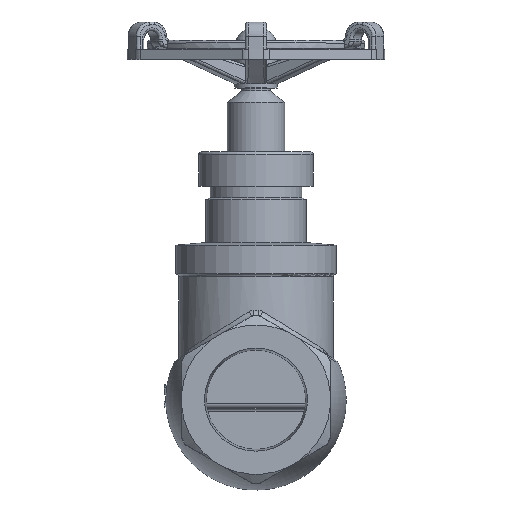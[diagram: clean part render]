
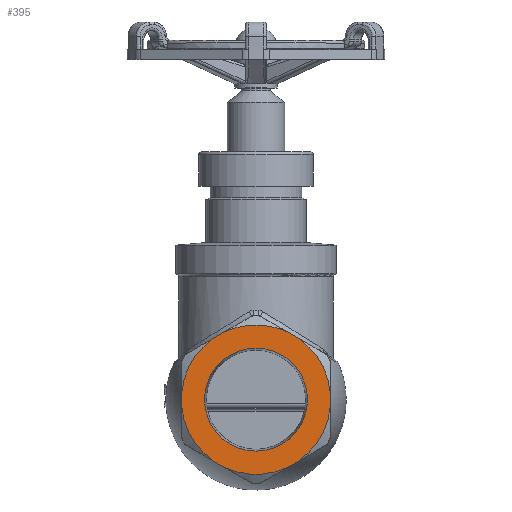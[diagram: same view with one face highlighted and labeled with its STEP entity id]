
A CAD part, top view. The second image highlights one B-rep face of the part: STEP entity #395.
In plain terms, the highlighted planar face has unit normal (0, 0, 1).
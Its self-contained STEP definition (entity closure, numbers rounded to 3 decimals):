
#395=ADVANCED_FACE('',(#4442,#4444),#4446,.T.);
#4442=FACE_BOUND('',#4443,.T.);
#4443=EDGE_LOOP('',(#13542,#13543,#13544,#13545,#13546,#13547,#13548,#13549,#13550,
#13551,#13552,#13553));
#4444=FACE_BOUND('',#4445,.T.);
#4445=EDGE_LOOP('',(#13554));
#4446=PLANE('',#4447);
#4447=AXIS2_PLACEMENT_3D('',#4448,#4449,#4450);
#4448=CARTESIAN_POINT('',(0.,0.,0.));
#4449=DIRECTION('',(0.,0.,1.));
#4450=DIRECTION('',(1.,0.,0.));
#13542=ORIENTED_EDGE('',*,*,#16520,.T.);
#13543=ORIENTED_EDGE('',*,*,#16521,.T.);
#13544=ORIENTED_EDGE('',*,*,#16522,.T.);
#13545=ORIENTED_EDGE('',*,*,#16436,.T.);
#13546=ORIENTED_EDGE('',*,*,#16523,.T.);
#13547=ORIENTED_EDGE('',*,*,#16426,.T.);
#13548=ORIENTED_EDGE('',*,*,#16524,.T.);
#13549=ORIENTED_EDGE('',*,*,#16416,.T.);
#13550=ORIENTED_EDGE('',*,*,#16525,.T.);
#13551=ORIENTED_EDGE('',*,*,#16406,.T.);
#13552=ORIENTED_EDGE('',*,*,#16519,.T.);
#13553=ORIENTED_EDGE('',*,*,#16517,.T.);
#13554=ORIENTED_EDGE('',*,*,#16526,.T.);
#16406=EDGE_CURVE('',#18029,#18027,#18030,.T.);
#16416=EDGE_CURVE('',#18045,#18043,#18046,.T.);
#16426=EDGE_CURVE('',#18061,#18059,#18062,.T.);
#16436=EDGE_CURVE('',#18077,#18075,#18078,.T.);
#16517=EDGE_CURVE('',#18212,#18210,#18213,.T.);
#16519=EDGE_CURVE('',#18027,#18212,#18215,.F.);
#16520=EDGE_CURVE('',#18210,#18216,#18217,.F.);
#16521=EDGE_CURVE('',#18216,#18218,#18219,.T.);
#16522=EDGE_CURVE('',#18218,#18077,#18220,.F.);
#16523=EDGE_CURVE('',#18075,#18061,#18221,.F.);
#16524=EDGE_CURVE('',#18059,#18045,#18222,.F.);
#16525=EDGE_CURVE('',#18043,#18029,#18223,.F.);
#16526=EDGE_CURVE('',#18224,#18224,#18225,.F.);
#18027=VERTEX_POINT('',#23497);
#18029=VERTEX_POINT('',#23534);
#18030=LINE('',#23535,#23536);
#18043=VERTEX_POINT('',#23625);
#18045=VERTEX_POINT('',#23658);
#18046=LINE('',#23659,#23660);
#18059=VERTEX_POINT('',#23747);
#18061=VERTEX_POINT('',#23780);
#18062=LINE('',#23781,#23782);
#18075=VERTEX_POINT('',#23867);
#18077=VERTEX_POINT('',#23904);
#18078=LINE('',#23905,#23906);
#18210=VERTEX_POINT('',#24708);
#18212=VERTEX_POINT('',#24741);
#18213=LINE('',#24742,#24743);
#18215=CIRCLE('',#24773,26.097);
#18216=VERTEX_POINT('',#24777);
#18217=CIRCLE('',#24778,26.097);
#18218=VERTEX_POINT('',#24782);
#18219=LINE('',#24783,#24784);
#18220=CIRCLE('',#24786,26.097);
#18221=CIRCLE('',#24790,26.097);
#18222=CIRCLE('',#24794,26.097);
#18223=CIRCLE('',#24798,26.097);
#18224=VERTEX_POINT('',#24802);
#18225=CIRCLE('',#24803,18.);
#23497=CARTESIAN_POINT('',(25.981,32.455,0.));
#23534=CARTESIAN_POINT('',(25.981,27.545,0.));
#23535=CARTESIAN_POINT('',(25.981,27.545,0.));
#23536=VECTOR('',#23537,1.);
#23537=DIRECTION('',(0.,1.,0.));
#23625=CARTESIAN_POINT('',(15.117,8.728,0.));
#23658=CARTESIAN_POINT('',(10.864,6.272,0.));
#23659=CARTESIAN_POINT('',(10.864,6.272,0.));
#23660=VECTOR('',#23661,1.);
#23661=DIRECTION('',(0.866,0.5,0.));
#23747=CARTESIAN_POINT('',(-10.864,6.272,0.));
#23780=CARTESIAN_POINT('',(-15.117,8.728,0.));
#23781=CARTESIAN_POINT('',(-15.117,8.728,0.));
#23782=VECTOR('',#23783,1.);
#23783=DIRECTION('',(0.866,-0.5,0.));
#23867=CARTESIAN_POINT('',(-25.981,27.545,0.));
#23904=CARTESIAN_POINT('',(-25.981,32.455,0.));
#23905=CARTESIAN_POINT('',(-25.981,32.455,0.));
#23906=VECTOR('',#23907,1.);
#23907=DIRECTION('',(0.,-1.,0.));
#24708=CARTESIAN_POINT('',(10.864,53.728,0.));
#24741=CARTESIAN_POINT('',(15.117,51.272,0.));
#24742=CARTESIAN_POINT('',(15.117,51.272,0.));
#24743=VECTOR('',#24744,1.);
#24744=DIRECTION('',(-0.866,0.5,0.));
#24773=AXIS2_PLACEMENT_3D('',#24774,#24775,#24776);
#24774=CARTESIAN_POINT('',(0.,30.,0.));
#24775=DIRECTION('',(0.,0.,-1.));
#24776=DIRECTION('',(0.579,0.815,0.));
#24777=CARTESIAN_POINT('',(-10.864,53.728,0.));
#24778=AXIS2_PLACEMENT_3D('',#24779,#24780,#24781);
#24779=CARTESIAN_POINT('',(0.,30.,0.));
#24780=DIRECTION('',(0.,0.,-1.));
#24781=DIRECTION('',(-0.416,0.909,0.));
#24782=CARTESIAN_POINT('',(-15.117,51.272,0.));
#24783=CARTESIAN_POINT('',(-10.864,53.728,0.));
#24784=VECTOR('',#24785,1.);
#24785=DIRECTION('',(-0.866,-0.5,0.));
#24786=AXIS2_PLACEMENT_3D('',#24787,#24788,#24789);
#24787=CARTESIAN_POINT('',(0.,30.,0.));
#24788=DIRECTION('',(0.,0.,-1.));
#24789=DIRECTION('',(-0.996,0.094,0.));
#24790=AXIS2_PLACEMENT_3D('',#24791,#24792,#24793);
#24791=CARTESIAN_POINT('',(0.,30.,0.));
#24792=DIRECTION('',(0.,0.,-1.));
#24793=DIRECTION('',(-0.579,-0.815,0.));
#24794=AXIS2_PLACEMENT_3D('',#24795,#24796,#24797);
#24795=CARTESIAN_POINT('',(0.,30.,0.));
#24796=DIRECTION('',(0.,0.,-1.));
#24797=DIRECTION('',(0.416,-0.909,0.));
#24798=AXIS2_PLACEMENT_3D('',#24799,#24800,#24801);
#24799=CARTESIAN_POINT('',(0.,30.,0.));
#24800=DIRECTION('',(0.,0.,-1.));
#24801=DIRECTION('',(0.996,-0.094,0.));
#24802=CARTESIAN_POINT('',(0.,12.,0.));
#24803=AXIS2_PLACEMENT_3D('',#24804,#24805,#24806);
#24804=CARTESIAN_POINT('',(0.,30.,0.));
#24805=DIRECTION('',(0.,0.,1.));
#24806=DIRECTION('',(0.,-1.,0.));
